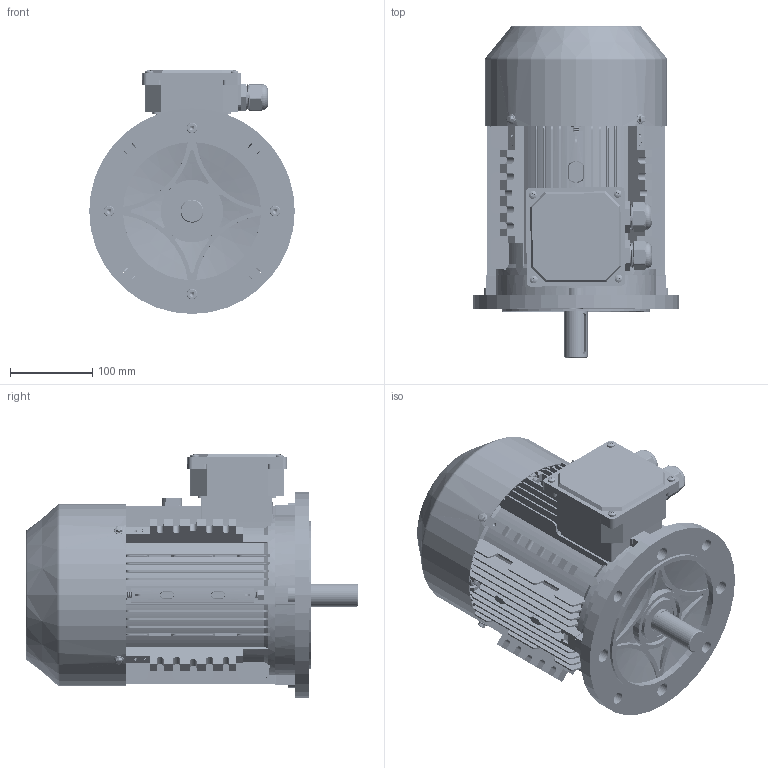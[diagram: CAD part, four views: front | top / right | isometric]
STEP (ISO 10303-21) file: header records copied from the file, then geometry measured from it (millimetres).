
FILE_DESCRIPTION (( 'STEP AP203' ), '1' );
FILE_NAME ('ME3-112B5 3D.STEP', '2024-07-12T07:02:00', ( 'User' ), ( 'China' ), 'SwSTEP 2.0', 'SolidWorks 2018', '' );
FILE_SCHEMA (( 'CONFIG_CONTROL_DESIGN' ));
Length unit declared in the file: millimetre
Products named in the file (17): cross recessed pan head screws gb_GB_CROSS_SCREWS_TYPE1 M5X8-8  H type-S; deep groove ball bearings gb_Rolling bearings 6306 GB 276-94; hex flange bolts-heavy grade b gb_GB_FASTENER_BOLT_HFBB M5X10-S; ME3-112 转轴（386）; M24 蹟杶; MS112-132 諉盄碟釱; M24 蹟杶簸; hexagon socket head cap screws gb_GB_FASTENER_SCREWS_HSHCS M8X40-S; MS112-132諉盄碟裔; hex nuts-style normal-grades ab gb_GB_HEXAGON_TYPE10 M8X1-S; ME3-112B5傷裔; spring lock washers--normal type gb_GB_FASTENER_WASHER_SW 8; ME3-112B5  3D; 蚐猾45X30X7; ME3-112 儂褲; ME3-112瑞欶; ME3-112B3傷裔
Assembly tree (45 placements, depth 2):
  ME3-112B5  3D
    ME3-112 儂褲
    ME3-112B3傷裔
    deep groove ball bearings gb_Rolling bearings 6306 GB 276-94  x2
    ME3-112 转轴（386）
    MS112-132 諉盄碟釱
    hexagon socket head cap screws gb_GB_FASTENER_SCREWS_HSHCS M8X40-S  x8
    hex nuts-style normal-grades ab gb_GB_HEXAGON_TYPE10 M8X1-S  x7
    spring lock washers--normal type gb_GB_FASTENER_WASHER_SW 8  x4
    蚐猾45X30X7
    ME3-112瑞欶
    cross recessed pan head screws gb_GB_CROSS_SCREWS_TYPE1 M5X8-8  H type-S  x8
    hex flange bolts-heavy grade b gb_GB_FASTENER_BOLT_HFBB M5X10-S  x4
    M24 蹟杶  x2
    M24 蹟杶簸  x2
    MS112-132諉盄碟裔
    ME3-112B5傷裔
Bounding box: 250 x 403.61 x 296.5 mm (x, y, z)
Volume: 2650102.4 mm3; surface area: 1282508.4 mm2
Topology: 45 solids, 46 shells, 6461 faces, 15831 edges, 9441 vertices
Faces by surface type: cone 2362, plane 1904, cylinder 1867, torus 212, sphere 72, bspline 44
Entity records: 113326 total; most frequent: CARTESIAN_POINT 30672, ORIENTED_EDGE 17320, DIRECTION 16061, EDGE_CURVE 8660, VERTEX_POINT 5576, AXIS2_PLACEMENT_3D 5470, LINE 5121, VECTOR 5121
